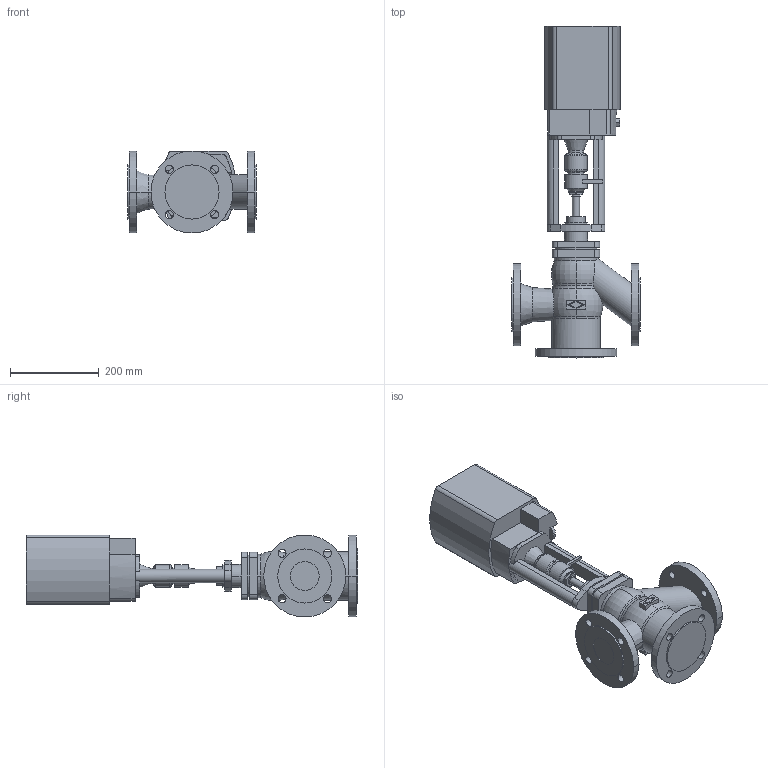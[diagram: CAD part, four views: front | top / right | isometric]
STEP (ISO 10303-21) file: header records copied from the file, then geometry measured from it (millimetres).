
FILE_DESCRIPTION( ( '' ), '1' );
FILE_NAME( 'F:/DE-SHS/TB/OR/04-Sonstiges/daten/files_3d/450-PREMIO-Plus-2G/c000006512.stp', '2017-02-22T12:48:45', ( '' ), ( '' ), ' ', ' ', ' ' );
FILE_SCHEMA( ( 'CONFIG_CONTROL_DESIGN' ) );
Length unit declared in the file: millimetre
Products named in the file (2): 1; 2
Bounding box: 290 x 749 x 185 mm (x, y, z)
Volume: 10975495.4 mm3; surface area: 608121.3 mm2
Topology: 2 solids, 2 shells, 258 faces, 665 edges, 437 vertices
Faces by surface type: plane 112, cylinder 112, torus 22, cone 12
Entity records: 8482 total; most frequent: CARTESIAN_POINT 1772, DIRECTION 1486, ORIENTED_EDGE 1330, EDGE_CURVE 665, AXIS2_PLACEMENT_3D 583, VERTEX_POINT 437, CIRCLE 321, LINE 320
